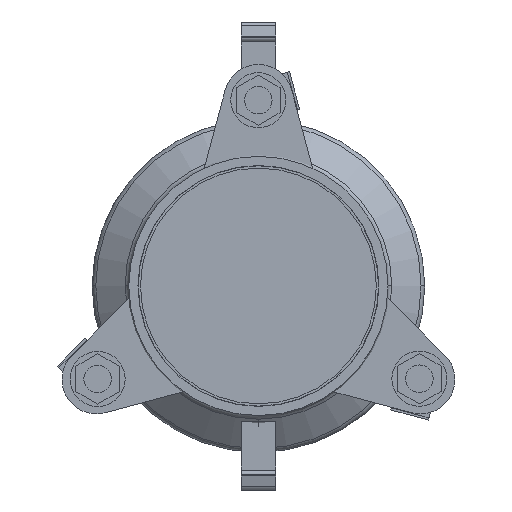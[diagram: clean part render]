
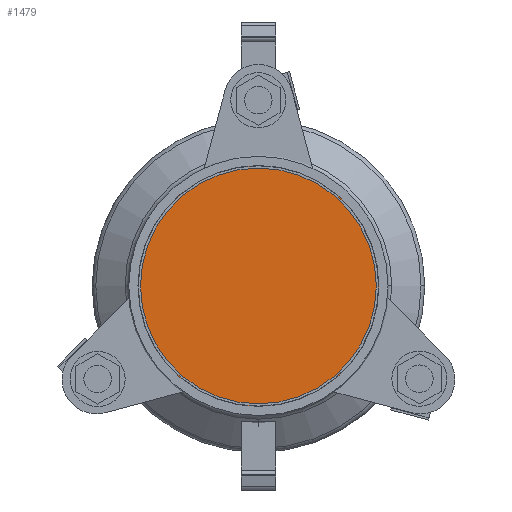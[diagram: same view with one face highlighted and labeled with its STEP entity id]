
A CAD part, left-side view. The second image highlights one B-rep face of the part: STEP entity #1479.
In plain terms, the highlighted planar face has unit normal (-1, 0, 0).
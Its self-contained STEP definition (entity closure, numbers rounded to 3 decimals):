
#1479=ADVANCED_FACE('',(#3007),#3008,.T.);
#3007=FACE_OUTER_BOUND('',#5070,.T.);
#3008=PLANE('',#5071);
#5070=EDGE_LOOP('',(#7363,#7364));
#5071=AXIS2_PLACEMENT_3D('',#7365,#7366,#7367);
#7363=ORIENTED_EDGE('',*,*,#11117,.T.);
#7364=ORIENTED_EDGE('',*,*,#11516,.T.);
#7365=CARTESIAN_POINT('',(17.5,0.0,0.0));
#7366=DIRECTION('',(-1.0,0.0,0.));
#7367=DIRECTION('',(0.,0.0,1.0));
#11117=EDGE_CURVE('',#13032,#13037,#13039,.T.);
#11516=EDGE_CURVE('',#13037,#13032,#13695,.T.);
#13032=VERTEX_POINT('',#15695);
#13037=VERTEX_POINT('',#15701);
#13039=CIRCLE('',#15704,56.5);
#13695=CIRCLE('',#16575,56.5);
#15695=CARTESIAN_POINT('',(17.5,0.0,-56.5));
#15701=CARTESIAN_POINT('',(17.5,0.,56.5));
#15704=AXIS2_PLACEMENT_3D('',#18906,#18907,#18908);
#16575=AXIS2_PLACEMENT_3D('',#19388,#19389,#19390);
#18906=CARTESIAN_POINT('',(17.5,0.0,0.0));
#18907=DIRECTION('',(-1.0,0.0,0.));
#18908=DIRECTION('',(0.,0.0,-1.0));
#19388=CARTESIAN_POINT('',(17.5,0.0,0.0));
#19389=DIRECTION('',(-1.0,0.0,0.));
#19390=DIRECTION('',(0.,0.0,-1.0));
